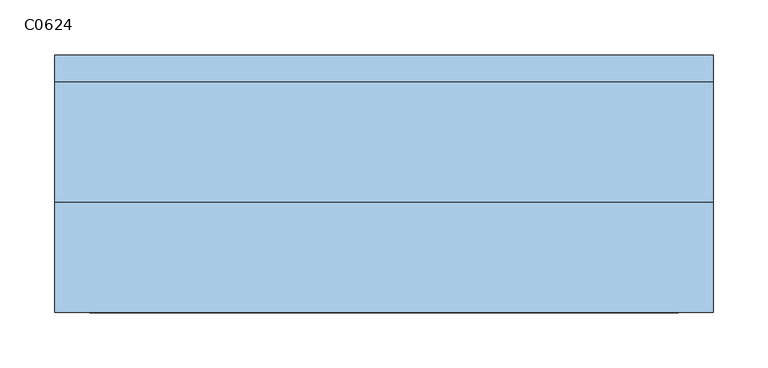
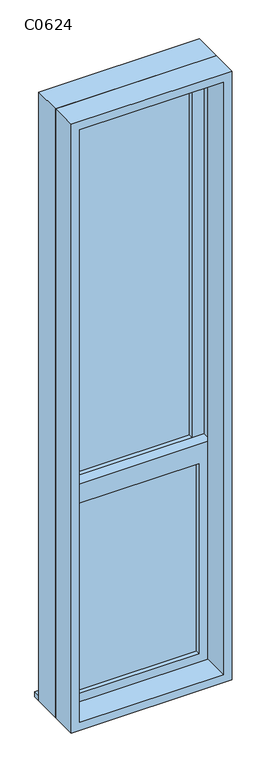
"""IFC4 building model written with IfcOpenShell, lengths in millimetres: window geometry, 上下拉窗1 : C0624."""

from ifc_helpers import new_model, si_unit, frame, origin, place, context, project, spatial, polyline, outline, extrude, source, transform, mapped, element, save


def c0624_d918e3f5(model_context):
    return source(origin(), model_context, "Body", "SweptSolid", [
        extrude(outline(polyline([(-235.0, 67.2615397), (235.0, 67.2615397), (235.0, 57.2615397), (-235.0, 57.2615397), (-235.0, 67.2615397)])), frame((0.0, 0.0, 1190.0), z_axis=(0.0, 0.0, 1.0), x_axis=(1.0, 0.0, 0.0)), (0.0, 0.0, 1.0), 1445.0),
        extrude(outline(polyline([(-235.0, 22.2615397), (235.0, 22.2615397), (235.0, 12.2615397), (-235.0, 12.2615397), (-235.0, 22.2615397)])), frame((0.0, 0.0, 365.0), z_axis=(0.0, 0.0, 1.0), x_axis=(1.0, 0.0, 0.0)), (0.0, 0.0, 1.0), 749.4323551),
        extrude(outline(polyline([(1190.0, -280.0), (320.0, -280.0), (320.0, 280.0), (1190.0, 280.0), (1190.0, -280.0)]), holes=[polyline([(1114.4323551, -235.0), (1114.4323551, 235.0), (365.0, 235.0), (365.0, -235.0), (1114.4323551, -235.0)])]), frame((0.0, -5.2384603, 0.0), z_axis=(0.0, 1.0, 0.0), x_axis=(0.0, 0.0, 1.0)), (0.0, 0.0, 1.0), 45.0),
        extrude(outline(polyline([(2680.0, -280.0), (1132.5, -280.0), (1132.5, 280.0), (2680.0, 280.0), (2680.0, -280.0)]), holes=[polyline([(2635.0, -235.0), (2635.0, 235.0), (1190.0, 235.0), (1190.0, -235.0), (2635.0, -235.0)])]), frame((0.0, 39.7615397, 0.0), z_axis=(0.0, 1.0, 0.0), x_axis=(0.0, 0.0, 1.0)), (0.0, 0.0, 1.0), 45.0),
        extrude(outline(polyline([(2700.0, -300.0), (300.0, -300.0), (300.0, 300.0), (2700.0, 300.0), (2700.0, -300.0)]), holes=[polyline([(2668.0, -268.0), (2668.0, 268.0), (332.0, 268.0), (332.0, -268.0), (2668.0, -268.0)])]), frame((0.0, -105.2384603, 0.0), z_axis=(0.0, 1.0, 0.0), x_axis=(0.0, 0.0, 1.0)), (0.0, 0.0, 1.0), 100.0),
        extrude(outline(polyline([(2700.0, 300.0), (2700.0, -300.0), (300.0, -300.0), (300.0, 300.0), (2700.0, 300.0)]), holes=[polyline([(2680.0, 280.0), (320.0, 280.0), (320.0, -280.0), (2680.0, -280.0), (2680.0, 280.0)])]), frame((0.0, -5.2384603, 0.0), z_axis=(0.0, 1.0, 0.0), x_axis=(0.0, 0.0, 1.0)), (0.0, 0.0, 1.0), 110.0),
        extrude(outline(polyline([(-300.0, 129.7615397), (300.0, 129.7615397), (300.0, 104.7615397), (-300.0, 104.7615397), (-300.0, 129.7615397)])), frame((0.0, 0.0, 300.0), z_axis=(0.0, 0.0, 1.0), x_axis=(1.0, 0.0, 0.0)), (0.0, 0.0, 1.0), 20.0),
    ])


if __name__ == "__main__":
    model = new_model("IFC4")
    model_context = context("Model", 3, world=origin())
    ifc_project = project(units=[si_unit("LENGTHUNIT", "METRE", prefix="MILLI")], contexts=[model_context])
    site = spatial("IfcSite", under=ifc_project)
    building = spatial("IfcBuilding", under=site)
    placement = place(None, origin())
    c0624_shape = c0624_d918e3f5(model_context)
    element("IfcWindow", 1, ObjectType="上下拉窗1 : C0624", at=placement, inside=building, context=model_context, shape_type="MappedRepresentation", body=[
        mapped(c0624_shape, transform((0.0, 0.0, 0.0), x_axis=(1.0, 0.0, 0.0), y_axis=(0.0, 1.0, 0.0), z_axis=(0.0, 0.0, 1.0))),
    ])
    save(model, "model.ifc")
